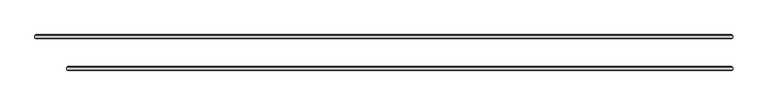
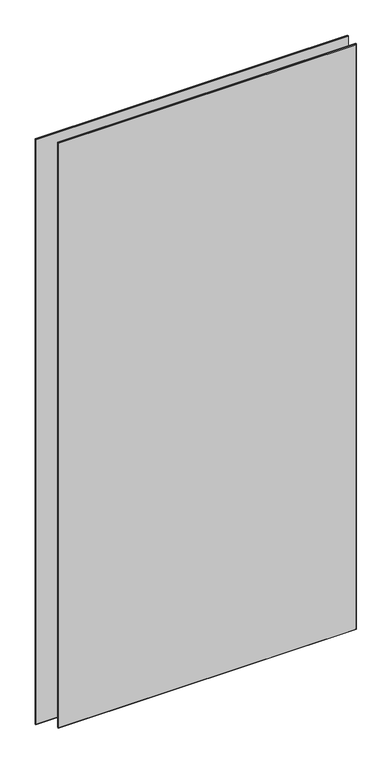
"""IFC4 building model written with IfcOpenShell, lengths in millimetres: plate geometry, 3-AMG-2-Панель двойной витраж 8, 10 : Смещение 32 Толщина 8mm."""

from ifc_helpers import new_model, si_unit, origin, place, context, project, spatial, faceted_brep, source, transform, mapped, element, save


def plate_718afa10(model_context):
    return source(origin(), model_context, "Body", "Brep", [
        faceted_brep([(679.3000674, 34.4961653, 2751.0), (-715.3000674, 34.4961653, 2751.0), (-715.3000674, 29.5038347, 2751.0), (679.3000674, 29.5038347, 2751.0), (679.3000674, 29.4960578, -7.0), (-715.3000674, 29.4960578, -7.0), (-715.3000674, 34.4961653, -7.0), (679.3000674, 34.4961653, -7.0), (-713.7962327, 28.0, 2749.4961653), (-713.7962327, 28.0, -5.5039422), (677.7962327, 28.0, -5.5039422), (677.7962327, 28.0, 2749.4961653), (677.7962327, 36.0, 2749.4961653), (677.7962327, 36.0, -5.4961653), (-713.7962327, 36.0, -5.4961653), (-713.7962327, 36.0, 2749.4961653)], [[[0, 1, 2, 3]], [[4, 5, 6, 7]], [[8, 9, 10, 11]], [[1, 6, 5, 2]], [[12, 13, 14, 15]], [[3, 4, 7, 0]], [[3, 11, 10, 4]], [[7, 13, 12, 0]], [[0, 12, 15, 1]], [[2, 8, 11, 3]], [[5, 9, 8, 2]], [[1, 15, 14, 6]], [[6, 14, 13, 7]], [[4, 10, 9, 5]]]),
        faceted_brep([(679.3000674, -29.5038347, 2751.0), (-651.3000674, -29.5038347, 2751.0), (-651.3000674, -34.4961653, 2751.0), (679.3000674, -34.4961653, 2751.0), (679.3000674, -34.5039422, -7.0), (-651.3000674, -34.5039422, -7.0), (-651.3000674, -29.5038347, -7.0), (679.3000674, -29.5038347, -7.0), (-649.7962327, -36.0, 2749.4961653), (-649.7962327, -36.0, -5.5039422), (677.7962327, -36.0, -5.5039422), (677.7962327, -36.0, 2749.4961653), (677.7962327, -28.0, 2749.4961653), (677.7962327, -28.0, -5.4961653), (-649.7962327, -28.0, -5.4961653), (-649.7962327, -28.0, 2749.4961653)], [[[0, 1, 2, 3]], [[4, 5, 6, 7]], [[8, 9, 10, 11]], [[1, 6, 5, 2]], [[12, 13, 14, 15]], [[3, 4, 7, 0]], [[3, 11, 10, 4]], [[7, 13, 12, 0]], [[5, 9, 8, 2]], [[1, 15, 14, 6]], [[0, 12, 15, 1]], [[2, 8, 11, 3]], [[6, 14, 13, 7]], [[4, 10, 9, 5]]]),
    ])


if __name__ == "__main__":
    model = new_model("IFC4")
    model_context = context("Model", 3, world=origin())
    ifc_project = project(units=[si_unit("LENGTHUNIT", "METRE", prefix="MILLI")], contexts=[model_context])
    site = spatial("IfcSite", under=ifc_project)
    building = spatial("IfcBuilding", under=site)
    placement = place(None, origin())
    plate_shape = plate_718afa10(model_context)
    element("IfcPlate", 1, ObjectType="3-AMG-2-Панель двойной витраж 8, 10 : Смещение 32 Толщина 8mm", at=placement, inside=building, context=model_context, shape_type="MappedRepresentation", body=[
        mapped(plate_shape, transform((0.0, 0.0, 0.0), x_axis=(1.0, 0.0, 0.0), y_axis=(0.0, 1.0, 0.0), z_axis=(0.0, 0.0, 1.0))),
    ])
    save(model, "model.ifc")
